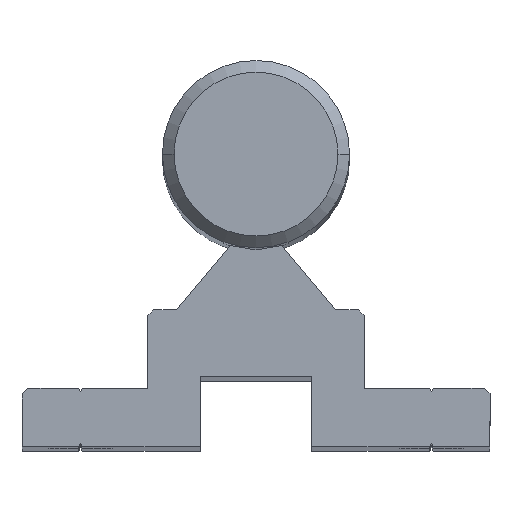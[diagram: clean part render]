
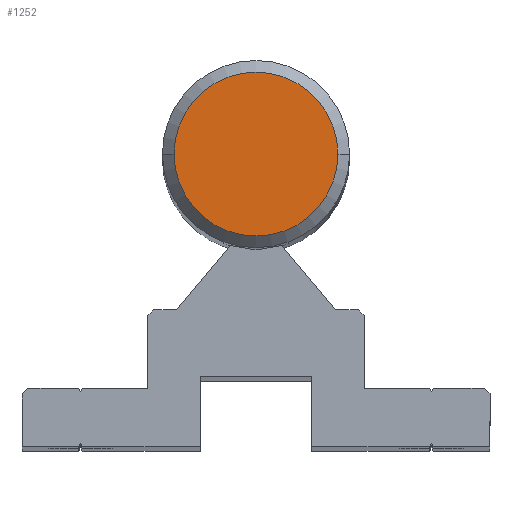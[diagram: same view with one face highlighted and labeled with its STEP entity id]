
A CAD part, top view. The second image highlights one B-rep face of the part: STEP entity #1252.
In plain terms, the highlighted planar face has unit normal (0, 0, 1).
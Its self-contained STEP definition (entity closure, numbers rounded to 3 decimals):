
#118 = EDGE_CURVE ( 'NONE', #535, #399, #1124, .T. ) ;
#170 = DIRECTION ( 'NONE',  ( 0., 0., 1. ) ) ;
#324 = PLANE ( 'NONE',  #2424 ) ;
#352 = EDGE_CURVE ( 'NONE', #399, #535, #2067, .T. ) ;
#399 = VERTEX_POINT ( 'NONE', #1097 ) ;
#527 = DIRECTION ( 'NONE',  ( 1., 0., 0. ) ) ;
#535 = VERTEX_POINT ( 'NONE', #2834 ) ;
#803 = ORIENTED_EDGE ( 'NONE', *, *, #118, .T. ) ;
#946 = DIRECTION ( 'NONE',  ( 0., 0., 1. ) ) ;
#1097 = CARTESIAN_POINT ( 'NONE',  ( -7., 25., 0. ) ) ;
#1124 = CIRCLE ( 'NONE', #2225, 7. ) ;
#1245 = CARTESIAN_POINT ( 'NONE',  ( 0., 25., 0. ) ) ;
#1252 = ADVANCED_FACE ( 'NONE', ( #1960 ), #324, .T. ) ;
#1300 = EDGE_LOOP ( 'NONE', ( #1337, #803 ) ) ;
#1337 = ORIENTED_EDGE ( 'NONE', *, *, #352, .T. ) ;
#1417 = DIRECTION ( 'NONE',  ( 1., 0., 0. ) ) ;
#1457 = AXIS2_PLACEMENT_3D ( 'NONE', #2321, #170, #1578 ) ;
#1578 = DIRECTION ( 'NONE',  ( 1., 0., 0. ) ) ;
#1698 = DIRECTION ( 'NONE',  ( 0., 0., 1. ) ) ;
#1960 = FACE_OUTER_BOUND ( 'NONE', #1300, .T. ) ;
#2067 = CIRCLE ( 'NONE', #1457, 7. ) ;
#2225 = AXIS2_PLACEMENT_3D ( 'NONE', #2363, #946, #1417 ) ;
#2321 = CARTESIAN_POINT ( 'NONE',  ( 0., 25., 0. ) ) ;
#2363 = CARTESIAN_POINT ( 'NONE',  ( 0., 25., 0. ) ) ;
#2424 = AXIS2_PLACEMENT_3D ( 'NONE', #1245, #1698, #527 ) ;
#2834 = CARTESIAN_POINT ( 'NONE',  ( 7., 25., 0. ) ) ;
